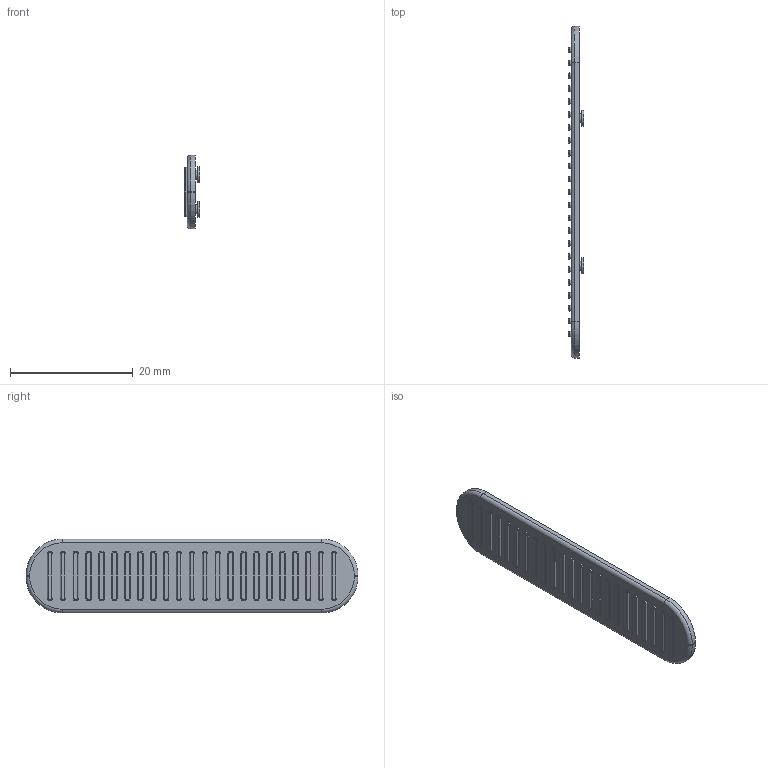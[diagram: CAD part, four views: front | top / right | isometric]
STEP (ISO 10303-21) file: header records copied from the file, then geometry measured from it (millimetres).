
FILE_DESCRIPTION(('Open CASCADE Model'),'2;1');
FILE_NAME('C27_16_Orange_Ribbed_PTT_Grip','2026-09-09T13:54:18',( 'Author'),('Open CASCADE'),'Open CASCADE STEP processor 7.9', 'build123d','Unknown');
FILE_SCHEMA(('AUTOMOTIVE_DESIGN { 1 0 10303 214 1 1 1 1 }'));
Length unit declared in the file: millimetre
Products named in the file (1): C27_16_Orange_Ribbed_PTT_Grip
Bounding box: 2.5 x 54 x 12 mm (x, y, z)
Volume: 905.2 mm3; surface area: 1566.2 mm2
Topology: 1 solids, 1 shells, 425 faces, 984 edges, 592 vertices
Faces by surface type: cylinder 200, plane 129, torus 96
Full cylindrical faces by diameter (mm): 1.5 x4, 2.6 x4
Entity records: 24859 total; most frequent: CARTESIAN_POINT 5690, DIRECTION 3540, ORIENTED_EDGE 1968, PCURVE 1968, DEFINITIONAL_REPRESENTATION 1968, LINE 1680, VECTOR 1680, EDGE_CURVE 984
